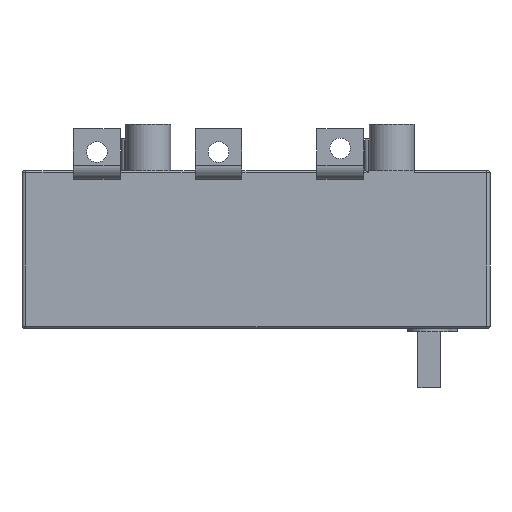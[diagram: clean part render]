
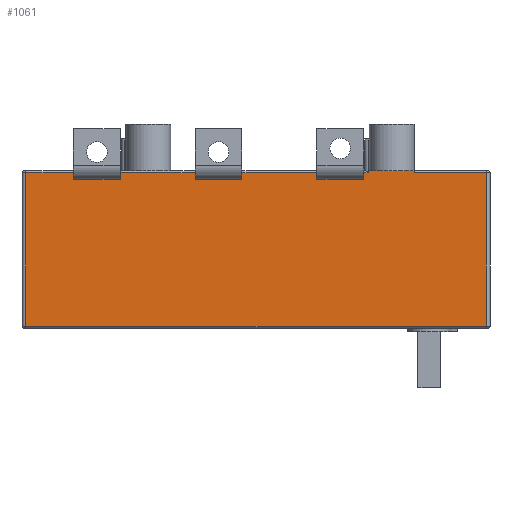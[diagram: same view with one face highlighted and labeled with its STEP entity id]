
A CAD part, front view. The second image highlights one B-rep face of the part: STEP entity #1061.
In plain terms, the highlighted planar face has unit normal (0, -1, 0).
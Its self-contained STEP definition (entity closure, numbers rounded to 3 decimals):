
#140=PLANE('',#3999);
#270=FACE_OUTER_BOUND('',#1560,.T.);
#277=LINE('',#5116,#574);
#288=LINE('',#5146,#585);
#290=LINE('',#5152,#587);
#304=LINE('',#5198,#601);
#315=LINE('',#5228,#612);
#317=LINE('',#5232,#614);
#331=LINE('',#5280,#628);
#342=LINE('',#5308,#639);
#344=LINE('',#5316,#641);
#454=LINE('',#5737,#751);
#463=LINE('',#5767,#760);
#469=LINE('',#5836,#766);
#474=LINE('',#5853,#771);
#475=LINE('',#5855,#772);
#497=LINE('',#5979,#794);
#504=LINE('',#6028,#801);
#536=LINE('',#6128,#833);
#542=LINE('',#6140,#839);
#552=LINE('',#6160,#849);
#563=LINE('',#6183,#860);
#566=LINE('',#6188,#863);
#567=LINE('',#6189,#864);
#574=VECTOR('',#4030,1.);
#585=VECTOR('',#4059,1.);
#587=VECTOR('',#4065,1.);
#601=VECTOR('',#4107,1.);
#612=VECTOR('',#4136,1.);
#614=VECTOR('',#4140,1.);
#628=VECTOR('',#4184,1.);
#639=VECTOR('',#4211,1.);
#641=VECTOR('',#4219,1.);
#751=VECTOR('',#4637,1.);
#760=VECTOR('',#4672,1.);
#766=VECTOR('',#4712,1.);
#771=VECTOR('',#4735,1.);
#772=VECTOR('',#4738,1.);
#794=VECTOR('',#4876,1.);
#801=VECTOR('',#4897,1.);
#833=VECTOR('',#4997,1.);
#839=VECTOR('',#5009,1.);
#849=VECTOR('',#5031,1.);
#860=VECTOR('',#5066,1.);
#863=VECTOR('',#5073,1.);
#864=VECTOR('',#5074,1.);
#1061=ADVANCED_FACE('',(#270),#140,.T.);
#1560=EDGE_LOOP('',(#2488,#2489,#2490,#2491,#2492,#2493,#2494,#2495,#2496,
#2497,#2498,#2499,#2500,#2501,#2502,#2503,#2504,#2505,#2506,#2507,#2508,
#2509));
#2488=ORIENTED_EDGE('',*,*,#2925,.F.);
#2489=ORIENTED_EDGE('',*,*,#2943,.T.);
#2490=ORIENTED_EDGE('',*,*,#3407,.T.);
#2491=ORIENTED_EDGE('',*,*,#2981,.F.);
#2492=ORIENTED_EDGE('',*,*,#2964,.F.);
#2493=ORIENTED_EDGE('',*,*,#2979,.F.);
#2494=ORIENTED_EDGE('',*,*,#3229,.T.);
#2495=ORIENTED_EDGE('',*,*,#3017,.F.);
#2496=ORIENTED_EDGE('',*,*,#3003,.F.);
#2497=ORIENTED_EDGE('',*,*,#3021,.F.);
#2498=ORIENTED_EDGE('',*,*,#3404,.T.);
#2499=ORIENTED_EDGE('',*,*,#3258,.F.);
#2500=ORIENTED_EDGE('',*,*,#3248,.T.);
#2501=ORIENTED_EDGE('',*,*,#3257,.T.);
#2502=ORIENTED_EDGE('',*,*,#3212,.T.);
#2503=ORIENTED_EDGE('',*,*,#3382,.T.);
#2504=ORIENTED_EDGE('',*,*,#3375,.F.);
#2505=ORIENTED_EDGE('',*,*,#3311,.F.);
#2506=ORIENTED_EDGE('',*,*,#3393,.T.);
#2507=ORIENTED_EDGE('',*,*,#3324,.T.);
#2508=ORIENTED_EDGE('',*,*,#3408,.T.);
#2509=ORIENTED_EDGE('',*,*,#2940,.T.);
#2580=VERTEX_POINT('',#5114);
#2582=VERTEX_POINT('',#5117);
#2591=VERTEX_POINT('',#5144);
#2593=VERTEX_POINT('',#5151);
#2611=VERTEX_POINT('',#5197);
#2612=VERTEX_POINT('',#5199);
#2621=VERTEX_POINT('',#5227);
#2623=VERTEX_POINT('',#5233);
#2641=VERTEX_POINT('',#5279);
#2642=VERTEX_POINT('',#5281);
#2651=VERTEX_POINT('',#5309);
#2653=VERTEX_POINT('',#5315);
#2792=VERTEX_POINT('',#5715);
#2793=VERTEX_POINT('',#5735);
#2801=VERTEX_POINT('',#5760);
#2811=VERTEX_POINT('',#5791);
#2815=VERTEX_POINT('',#5833);
#2863=VERTEX_POINT('',#5978);
#2864=VERTEX_POINT('',#5980);
#2871=VERTEX_POINT('',#6010);
#2874=VERTEX_POINT('',#6027);
#2909=VERTEX_POINT('',#6129);
#2925=EDGE_CURVE('',#2580,#2582,#277,.T.);
#2940=EDGE_CURVE('',#2591,#2582,#288,.T.);
#2943=EDGE_CURVE('',#2580,#2593,#290,.T.);
#2964=EDGE_CURVE('',#2611,#2612,#304,.T.);
#2979=EDGE_CURVE('',#2621,#2611,#315,.T.);
#2981=EDGE_CURVE('',#2612,#2623,#317,.T.);
#3003=EDGE_CURVE('',#2641,#2642,#331,.T.);
#3017=EDGE_CURVE('',#2642,#2651,#342,.T.);
#3021=EDGE_CURVE('',#2653,#2641,#344,.T.);
#3212=EDGE_CURVE('',#2792,#2793,#454,.T.);
#3229=EDGE_CURVE('',#2621,#2651,#463,.T.);
#3248=EDGE_CURVE('',#2815,#2811,#469,.T.);
#3257=EDGE_CURVE('',#2811,#2792,#474,.T.);
#3258=EDGE_CURVE('',#2815,#2801,#475,.T.);
#3311=EDGE_CURVE('',#2863,#2864,#497,.T.);
#3324=EDGE_CURVE('',#2871,#2874,#504,.T.);
#3375=EDGE_CURVE('',#2864,#2909,#536,.T.);
#3382=EDGE_CURVE('',#2793,#2909,#542,.T.);
#3393=EDGE_CURVE('',#2863,#2871,#552,.T.);
#3404=EDGE_CURVE('',#2653,#2801,#563,.T.);
#3407=EDGE_CURVE('',#2593,#2623,#566,.T.);
#3408=EDGE_CURVE('',#2874,#2591,#567,.T.);
#3999=AXIS2_PLACEMENT_3D('',#6190,#5075,#5076);
#4030=DIRECTION('',(1.,0.,0.));
#4059=DIRECTION('',(0.,0.,-1.));
#4065=DIRECTION('',(0.,0.,1.));
#4107=DIRECTION('',(1.,0.,0.));
#4136=DIRECTION('',(0.,0.,-1.));
#4140=DIRECTION('',(0.,0.,1.));
#4184=DIRECTION('',(1.,0.,0.));
#4211=DIRECTION('',(0.,0.,1.));
#4219=DIRECTION('',(0.,0.,-1.));
#4637=DIRECTION('',(-1.,0.,0.));
#4672=DIRECTION('',(-1.,0.,0.));
#4712=DIRECTION('',(1.,0.,0.));
#4735=DIRECTION('',(0.,0.,1.));
#4738=DIRECTION('',(0.,0.,1.));
#4876=DIRECTION('',(0.,0.,-1.));
#4897=DIRECTION('',(0.,0.,-1.));
#4997=DIRECTION('',(1.,0.,0.));
#5009=DIRECTION('',(0.,0.,1.));
#5031=DIRECTION('',(-1.,0.,0.));
#5066=DIRECTION('',(-1.,0.,0.));
#5073=DIRECTION('',(-1.,0.,0.));
#5074=DIRECTION('',(-1.,0.,0.));
#5075=DIRECTION('',(0.,-1.,0.));
#5076=DIRECTION('',(1.,0.,0.));
#5114=CARTESIAN_POINT('',(-40.,-52.5,-4.416));
#5116=CARTESIAN_POINT('',(-15.,-52.5,-4.416));
#5117=CARTESIAN_POINT('',(-15.,-52.5,-4.416));
#5144=CARTESIAN_POINT('',(-15.,-52.5,-1.));
#5146=CARTESIAN_POINT('',(-15.,-52.5,4.));
#5151=CARTESIAN_POINT('',(-40.,-52.5,-1.));
#5152=CARTESIAN_POINT('',(-40.,-52.5,4.));
#5197=CARTESIAN_POINT('',(-105.,-52.5,-4.416));
#5198=CARTESIAN_POINT('',(-80.,-52.5,-4.416));
#5199=CARTESIAN_POINT('',(-80.,-52.5,-4.416));
#5227=CARTESIAN_POINT('',(-105.,-52.5,-1.));
#5228=CARTESIAN_POINT('',(-105.,-52.5,4.));
#5232=CARTESIAN_POINT('',(-80.,-52.5,4.));
#5233=CARTESIAN_POINT('',(-80.,-52.5,-1.));
#5279=CARTESIAN_POINT('',(-170.,-52.5,-4.416));
#5280=CARTESIAN_POINT('',(-145.,-52.5,-4.416));
#5281=CARTESIAN_POINT('',(-145.,-52.5,-4.416));
#5308=CARTESIAN_POINT('',(-145.,-52.5,4.));
#5309=CARTESIAN_POINT('',(-145.,-52.5,-1.));
#5315=CARTESIAN_POINT('',(-170.,-52.5,-1.));
#5316=CARTESIAN_POINT('',(-170.,-52.5,4.));
#5715=CARTESIAN_POINT('',(50.5,-52.5,-1.));
#5735=CARTESIAN_POINT('',(12.,-52.5,-1.));
#5737=CARTESIAN_POINT('',(12.,-52.5,-1.));
#5760=CARTESIAN_POINT('',(-195.5,-52.5,-1.));
#5767=CARTESIAN_POINT('',(-195.5,-52.5,-1.));
#5791=CARTESIAN_POINT('',(50.5,-52.5,-83.));
#5833=CARTESIAN_POINT('',(-195.5,-52.5,-83.));
#5836=CARTESIAN_POINT('',(-12.,-52.5,-83.));
#5853=CARTESIAN_POINT('',(50.5,-52.5,-84.));
#5855=CARTESIAN_POINT('',(-195.5,-52.5,-84.));
#5978=CARTESIAN_POINT('',(-12.,-52.5,17.));
#5979=CARTESIAN_POINT('',(-12.,-52.5,25.));
#5980=CARTESIAN_POINT('',(-12.,-52.5,0.));
#6010=CARTESIAN_POINT('',(-12.5,-52.5,17.));
#6027=CARTESIAN_POINT('',(-12.5,-52.5,-1.));
#6028=CARTESIAN_POINT('',(-12.5,-52.5,4.));
#6128=CARTESIAN_POINT('',(50.5,-52.5,0.));
#6129=CARTESIAN_POINT('',(12.,-52.5,0.));
#6140=CARTESIAN_POINT('',(12.,-52.5,4.));
#6160=CARTESIAN_POINT('',(7.5,-52.5,17.));
#6183=CARTESIAN_POINT('',(-195.5,-52.5,-1.));
#6188=CARTESIAN_POINT('',(-195.5,-52.5,-1.));
#6189=CARTESIAN_POINT('',(-195.5,-52.5,-1.));
#6190=CARTESIAN_POINT('',(-12.,-52.5,4.));
